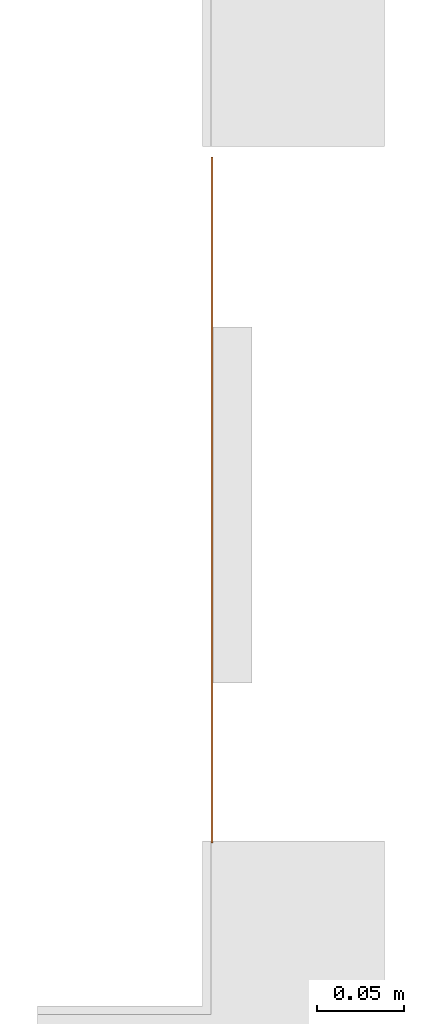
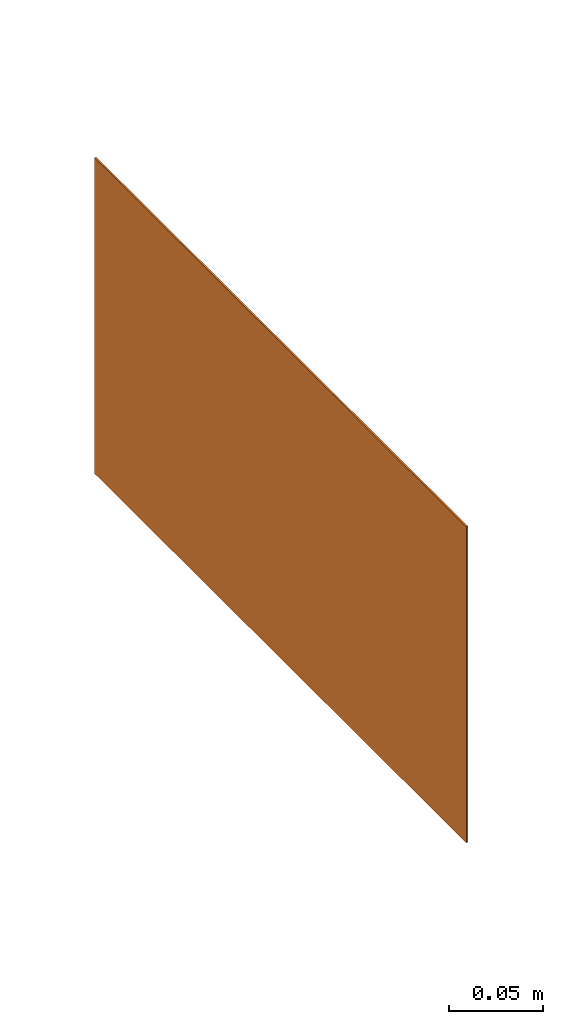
# One storey, part 31 of 119: 1 proxy.
"""IFC2X3 building model written with IfcOpenShell, lengths in metres."""

from ifc_helpers import new_model, entity, si_unit, converted_unit, derived_unit, direction, frame, frame_2d, origin, origin_2d_with_axis, place, context, subcontext, project, spatial, polyline, circle_curve, parameter, trimmed, segment, composite_curve, rectangle, outline, extrude, source, transform, mapped, material, material_list, type_object, type_shapes, element, save


model = new_model("IFC2X3")

# Units and contexts
model_context = context("Model", 3, precision=1e-05, world=origin(), true_north=direction((6.12303176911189e-17, 1.0)))
body_context = subcontext(model_context, "Body", "Model", "MODEL_VIEW")
ifc_project = project(units=[si_unit("LENGTHUNIT", "METRE"), si_unit("AREAUNIT", "SQUARE_METRE"), si_unit("VOLUMEUNIT", "CUBIC_METRE"), converted_unit("PLANEANGLEUNIT", "DEGREE", entity("IfcRatioMeasure", 0.0174532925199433), si_unit("PLANEANGLEUNIT", "RADIAN"), dimensions=[0, 0, 0, 0, 0, 0, 0]), si_unit("MASSUNIT", "GRAM", prefix="KILO"), derived_unit("MASSDENSITYUNIT", [(si_unit("MASSUNIT", "GRAM", prefix="KILO"), 1), (si_unit("LENGTHUNIT", "METRE"), -3)]), derived_unit("MOMENTOFINERTIAUNIT", [(si_unit("LENGTHUNIT", "METRE"), 4)]), si_unit("TIMEUNIT", "SECOND"), si_unit("FREQUENCYUNIT", "HERTZ"), si_unit("THERMODYNAMICTEMPERATUREUNIT", "DEGREE_CELSIUS"), derived_unit("THERMALTRANSMITTANCEUNIT", [(si_unit("MASSUNIT", "GRAM", prefix="KILO"), 1), (si_unit("THERMODYNAMICTEMPERATUREUNIT", "KELVIN"), -1), (si_unit("TIMEUNIT", "SECOND"), -3)]), derived_unit("VOLUMETRICFLOWRATEUNIT", [(si_unit("LENGTHUNIT", "METRE"), 3), (si_unit("TIMEUNIT", "SECOND"), -1)]), si_unit("ELECTRICCURRENTUNIT", "AMPERE"), si_unit("ELECTRICVOLTAGEUNIT", "VOLT"), si_unit("POWERUNIT", "WATT"), si_unit("FORCEUNIT", "NEWTON", prefix="KILO"), si_unit("ILLUMINANCEUNIT", "LUX"), si_unit("LUMINOUSFLUXUNIT", "LUMEN"), si_unit("LUMINOUSINTENSITYUNIT", "CANDELA"), derived_unit("USERDEFINED", [(si_unit("MASSUNIT", "GRAM", prefix="KILO"), -1), (si_unit("LENGTHUNIT", "METRE"), -2), (si_unit("TIMEUNIT", "SECOND"), 3), (si_unit("LUMINOUSFLUXUNIT", "LUMEN"), 1)]), derived_unit("LINEARVELOCITYUNIT", [(si_unit("LENGTHUNIT", "METRE"), 1), (si_unit("TIMEUNIT", "SECOND"), -1)]), si_unit("PRESSUREUNIT", "PASCAL"), derived_unit("USERDEFINED", [(si_unit("LENGTHUNIT", "METRE"), -2), (si_unit("MASSUNIT", "GRAM", prefix="KILO"), 1), (si_unit("TIMEUNIT", "SECOND"), -2)]), derived_unit("LINEARFORCEUNIT", [(si_unit("MASSUNIT", "GRAM", prefix="KILO"), 1), (si_unit("LENGTHUNIT", "METRE"), 1), (si_unit("TIMEUNIT", "SECOND"), -2), (si_unit("LENGTHUNIT", "METRE"), -1)]), derived_unit("PLANARFORCEUNIT", [(si_unit("MASSUNIT", "GRAM", prefix="KILO"), 1), (si_unit("LENGTHUNIT", "METRE"), 1), (si_unit("TIMEUNIT", "SECOND"), -2), (si_unit("LENGTHUNIT", "METRE"), -2)])], contexts=[model_context])

# Site, building, storey
site_placement = place(None, origin())
site = spatial("IfcSite", under=ifc_project, at=site_placement, Name="Default", CompositionType="ELEMENT")
building_placement = place(site_placement, origin())
building = spatial("IfcBuilding", under=site, at=building_placement, CompositionType="ELEMENT")
storey_placement = place(building_placement, origin())
storey = spatial("IfcBuildingStorey", under=building, at=storey_placement, Name="PAV. 01 - TÉRREO", CompositionType="ELEMENT", Elevation=0.0)

# Proxy
ifc_material_1 = material(Name="Plastico branco")
ifc_material_2 = material(Name="Plastico Verde")
ifc_material_list = material_list([ifc_material_1, ifc_material_2])
building_element_proxy_type = type_object("IfcBuildingElementProxyType", Name="Sinalização de orientação - S02 - Indicação do sentido da saída de emergência esquerda:Distância 12m", PredefinedType="NOTDEFINED", material=ifc_material_1)
shared_shape = source(origin(), body_context, "Body", "SweptSolid", [
    extrude(outline(polyline([(-0.0269307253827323, -0.024231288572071), (-0.0259628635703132, -0.024231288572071), (-0.0248498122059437, -0.0234083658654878), (-0.0236286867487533, -0.0219305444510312), (-0.0223366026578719, -0.0199658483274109), (-0.0210106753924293, -0.0176823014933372), (-0.0159905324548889, -0.00832626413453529), (-0.0136800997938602, -0.00426313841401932), (-0.0125256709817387, -0.00238736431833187), (-0.0113513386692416, -0.000610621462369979), (-0.0101417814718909, 0.0010707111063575), (-0.00888166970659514, 0.00266026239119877), (-0.00754048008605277, 0.00417640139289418), (-0.00604105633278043, 0.00568273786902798), (-0.00429732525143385, 0.00725153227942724), (-0.00222321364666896, 0.00895504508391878), (0.000267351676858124, 0.010865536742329), (0.0161156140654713, 0.0220225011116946), (0.00541084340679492, 0.027666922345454), (0.004563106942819, 0.0280964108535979), (0.00398677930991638, 0.0283743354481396), (0.00361343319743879, 0.0285356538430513), (0.00337464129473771, 0.0286153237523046), (0.0032019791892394, 0.0286482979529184), (0.00303386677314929, 0.0286578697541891), (0.00283021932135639, 0.0286307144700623), (0.00255516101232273, 0.02854633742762), (0.00217281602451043, 0.0283842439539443), (0.00164730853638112, 0.0281239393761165), (0.000942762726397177, 0.0277449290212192), (-0.0154440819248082, 0.0179800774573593), (-0.0169906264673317, 0.0173662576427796), (-0.0184263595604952, 0.0170104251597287), (-0.0197467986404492, 0.0168906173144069), (-0.0209474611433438, 0.0169848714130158), (-0.0220238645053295, 0.017271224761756), (-0.0229715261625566, 0.0177277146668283), (-0.0237859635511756, 0.0183323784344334), (-0.0244626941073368, 0.0190632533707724), (-0.0249972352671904, 0.0198983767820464), (-0.025385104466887, 0.0208157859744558), (-0.0256218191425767, 0.0217935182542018), (-0.02570289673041, 0.0228096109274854), (-0.0256238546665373, 0.023842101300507), (-0.0253802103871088, 0.024869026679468), (-0.024967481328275, 0.0258684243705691), (-0.0243811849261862, 0.026818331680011), (-0.0236168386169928, 0.0276967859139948), (-0.022669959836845, 0.0284818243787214), (-0.012358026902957, 0.0349145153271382), (-0.0056365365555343, 0.0389186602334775), (-0.00143098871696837, 0.0410123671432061), (0.00133311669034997, 0.0417137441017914), (0.00371952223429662, 0.0415365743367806), (0.00635115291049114, 0.0408174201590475), (0.00926485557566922, 0.0396572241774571), (0.0124569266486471, 0.0381406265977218), (0.0382522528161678, 0.0245317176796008), (0.0409647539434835, 0.0230291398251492), (0.0432264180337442, 0.021505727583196), (0.0450948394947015, 0.0197223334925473), (0.0466276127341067, 0.0174398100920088), (0.0478823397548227, 0.0144190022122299), (0.0489477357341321, 0.0103891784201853), (0.0500145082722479, 0.00497609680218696), (0.0529984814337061, -0.0115815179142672), (0.0687826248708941, -0.0199385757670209), (0.101976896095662, 0.0427561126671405), (0.00232291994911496, 0.0955188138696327), (-0.0513007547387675, -0.00576130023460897), (-0.0561261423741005, -0.00320645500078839), (-0.0853051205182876, -0.0156605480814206), (-0.0628396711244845, -0.0275550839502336), (-0.0734521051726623, -0.0475990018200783), (-0.0904241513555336, -0.0529832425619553), (-0.0204118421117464, -0.0900518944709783), (-0.00292720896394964, -0.0849390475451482), (0.0122206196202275, -0.0929592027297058), (-0.00693758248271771, -0.0971859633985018), (0.00953030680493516, -0.105905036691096), (0.0262018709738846, -0.100361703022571), (0.0628213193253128, -0.0311978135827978), (0.0451218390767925, -0.0218302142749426), (0.0436304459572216, -0.0209809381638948), (0.0424868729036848, -0.020192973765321), (0.041614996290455, -0.0193663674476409), (0.0409386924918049, -0.0184011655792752), (0.0403818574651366, -0.0171974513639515), (0.0398810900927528, -0.0156792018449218), (0.0394075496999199, -0.0138354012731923), (0.0389382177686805, -0.0116659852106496), (0.0366426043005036, 0.000269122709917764), (0.0172569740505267, -0.0138624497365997), (0.0147941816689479, -0.0880984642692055), (-0.000353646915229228, -0.0800783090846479), (-0.000324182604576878, -0.0142849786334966), (-0.0124368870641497, -0.0319051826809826), (-0.0138384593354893, -0.0341119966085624), (-0.0151491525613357, -0.0360250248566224), (-0.0164165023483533, -0.0376353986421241), (-0.0176880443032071, -0.0389342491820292), (-0.0190113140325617, -0.0399127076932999), (-0.0204338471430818, -0.0405619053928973), (-0.0220031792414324, -0.0408729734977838), (-0.0237668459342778, -0.0408370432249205), (-0.025772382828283, -0.0404452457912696), (-0.0280673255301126, -0.0396887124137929), (-0.0306992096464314, -0.0385585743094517), (-0.0337155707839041, -0.0370459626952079), (-0.0714172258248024, -0.0170844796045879), (-0.0536029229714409, -0.0101094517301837), (-0.0269307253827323, -0.024231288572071)]), holes=[composite_curve([segment(trimmed(circle_curve(frame_2d((0.0517161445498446, 0.0359195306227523), x_axis=(0.883770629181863, -0.46792037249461)), 0.0134), [parameter(180.0)], [parameter(360.0)], True, "PARAMETER"), False, "CONTINUOUS"), segment(trimmed(circle_curve(frame_2d((0.0517161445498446, 0.0359195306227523), x_axis=(0.883770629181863, -0.46792037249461)), 0.0134), [parameter(2.03555499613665e-13)], [parameter(180.0)], True, "PARAMETER"), False, "CONTINUOUS")], self_intersect=False)]), frame((0.112957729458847, -0.00110000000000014, 1.90431633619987), z_axis=(0.0, 1.0, 0.0), x_axis=(-0.883770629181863, 0.0, 0.46792037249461)), (0.0, 0.0, 1.0), 0.0011),
    extrude(outline(polyline([(-0.197500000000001, -0.102500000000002), (0.197500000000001, -0.102500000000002), (0.197500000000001, 0.102500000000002), (-0.197500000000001, 0.102500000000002), (-0.197500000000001, -0.102500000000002)]), holes=[polyline([(-0.190000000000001, -0.0950000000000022), (-0.190000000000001, 0.0949999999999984), (0.189999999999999, 0.0949999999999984), (0.189999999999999, -0.0950000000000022), (-0.190000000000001, -0.0950000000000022)])]), frame((0.0, -0.0011, 1.9025), z_axis=(0.0, 1.0, 0.0), x_axis=(1.0, 0.0, 0.0)), (0.0, 0.0, 1.0), 0.0011),
    extrude(rectangle(XDim=0.38, YDim=0.001, at=origin_2d_with_axis()), frame((0.0, -0.0005, 1.8075)), (0.0, 0.0, 1.0), 0.190000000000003),
    extrude(outline(polyline([(-0.0341511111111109, -0.0575999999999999), (0.016628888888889, -0.0575999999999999), (-0.0218311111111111, -0.0191399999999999), (0.0852288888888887, -0.0191399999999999), (0.0852288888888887, 0.0191400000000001), (-0.0218311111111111, 0.0191400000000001), (0.016628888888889, 0.0576000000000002), (-0.0341511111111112, 0.0576000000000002), (-0.0917511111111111, 0.0), (-0.0341511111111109, -0.0575999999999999)])), frame((-0.0852288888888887, -0.0011, 1.9025), z_axis=(0.0, 1.0, 0.0), x_axis=(1.0, 0.0, 0.0)), (0.0, 0.0, 1.0), 0.0011),
])
type_shapes(building_element_proxy_type, [shared_shape])
proxy_placement = place(storey_placement, frame((21.4738560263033, 6.42504972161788, 0.0), z_axis=(0.0, 0.0, 1.0), x_axis=(0.0, 1.0, 0.0)))
element("IfcBuildingElementProxy", 1, at=proxy_placement, inside=storey, type_object=building_element_proxy_type, material=ifc_material_list, Name="Sinalização de orientação - S02 - Indicação do sentido da saída de emergência esquerda:Distância 12m", ObjectType="Sinalização de orientação - S02 - Indicação do sentido da saída de emergência esquerda:Distância 12m", context=body_context, shape_type="MappedRepresentation", body=[
    mapped(shared_shape, transform((0.0, 0.0, 0.0), scale=1.0)),
])

save(model, "model.ifc")
